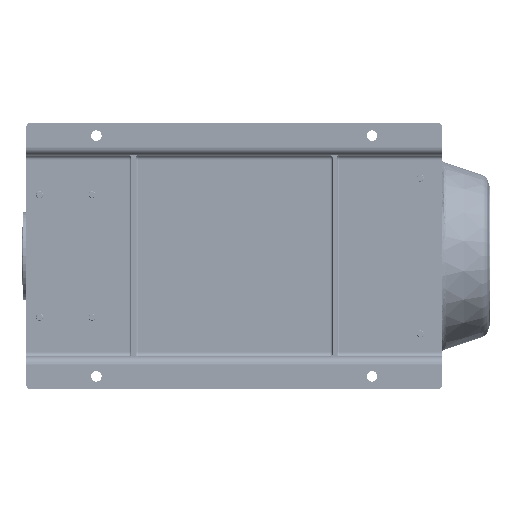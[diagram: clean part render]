
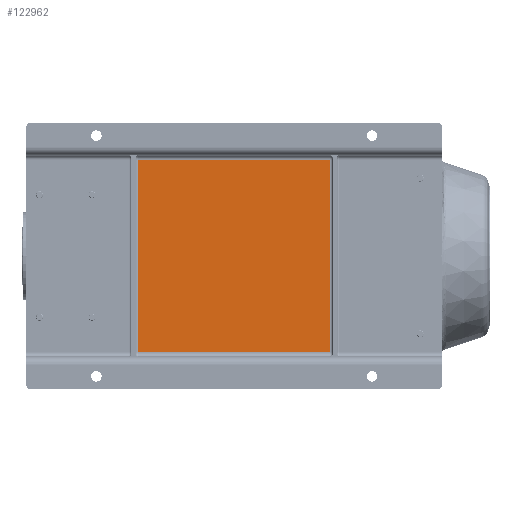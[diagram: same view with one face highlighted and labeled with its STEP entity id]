
A CAD part, front view. The second image highlights one B-rep face of the part: STEP entity #122962.
In plain terms, the highlighted planar face has unit normal (0, -1, 0).
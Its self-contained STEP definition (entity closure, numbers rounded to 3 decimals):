
#1460 = ORIENTED_EDGE ( 'NONE', *, *, #12140, .T. ) ;
#12140 = EDGE_CURVE ( 'NONE', #60009, #142868, #148492, .T. ) ;
#19454 = EDGE_LOOP ( 'NONE', ( #120450, #1460, #133644, #134719 ) ) ;
#25454 = CARTESIAN_POINT ( 'NONE',  ( 525., 65., -250. ) ) ;
#28068 = CARTESIAN_POINT ( 'NONE',  ( 75., 65., -255. ) ) ;
#29869 = DIRECTION ( 'NONE',  ( 1., 0., 0. ) ) ;
#32526 = CARTESIAN_POINT ( 'NONE',  ( 85., 65., -695. ) ) ;
#38736 = CARTESIAN_POINT ( 'NONE',  ( 525., 65., -695. ) ) ;
#40391 = EDGE_CURVE ( 'NONE', #133216, #60009, #55342, .T. ) ;
#43863 = CARTESIAN_POINT ( 'NONE',  ( 85., 65., -700. ) ) ;
#55342 = LINE ( 'NONE', #43863, #61240 ) ;
#60009 = VERTEX_POINT ( 'NONE', #32526 ) ;
#61240 = VECTOR ( 'NONE', #135762, 1000. ) ;
#62157 = EDGE_CURVE ( 'NONE', #142868, #88724, #71409, .T. ) ;
#70947 = PLANE ( 'NONE',  #133983 ) ;
#71409 = LINE ( 'NONE', #25454, #140497 ) ;
#71704 = DIRECTION ( 'NONE',  ( 0., -1., 0. ) ) ;
#83159 = DIRECTION ( 'NONE',  ( 0., 0., -1. ) ) ;
#85435 = FACE_OUTER_BOUND ( 'NONE', #19454, .T. ) ;
#87744 = DIRECTION ( 'NONE',  ( -1., 0., 0. ) ) ;
#88724 = VERTEX_POINT ( 'NONE', #129994 ) ;
#101832 = CARTESIAN_POINT ( 'NONE',  ( 85., 65., -255. ) ) ;
#105110 = DIRECTION ( 'NONE',  ( 0., 0., 1. ) ) ;
#107774 = VECTOR ( 'NONE', #87744, 1000. ) ;
#120450 = ORIENTED_EDGE ( 'NONE', *, *, #40391, .T. ) ;
#120680 = CARTESIAN_POINT ( 'NONE',  ( 75., 65., -950. ) ) ;
#122962 = ADVANCED_FACE ( 'NONE', ( #85435 ), #70947, .T. ) ;
#125432 = VECTOR ( 'NONE', #29869, 1000. ) ;
#129994 = CARTESIAN_POINT ( 'NONE',  ( 525., 65., -255. ) ) ;
#133216 = VERTEX_POINT ( 'NONE', #101832 ) ;
#133644 = ORIENTED_EDGE ( 'NONE', *, *, #62157, .T. ) ;
#133862 = EDGE_CURVE ( 'NONE', #88724, #133216, #143699, .T. ) ;
#133983 = AXIS2_PLACEMENT_3D ( 'NONE', #120680, #71704, #83159 ) ;
#134719 = ORIENTED_EDGE ( 'NONE', *, *, #133862, .T. ) ;
#134742 = CARTESIAN_POINT ( 'NONE',  ( 75., 65., -695. ) ) ;
#135762 = DIRECTION ( 'NONE',  ( 0., 0., -1. ) ) ;
#140497 = VECTOR ( 'NONE', #105110, 1000. ) ;
#142868 = VERTEX_POINT ( 'NONE', #38736 ) ;
#143699 = LINE ( 'NONE', #28068, #107774 ) ;
#148492 = LINE ( 'NONE', #134742, #125432 ) ;
